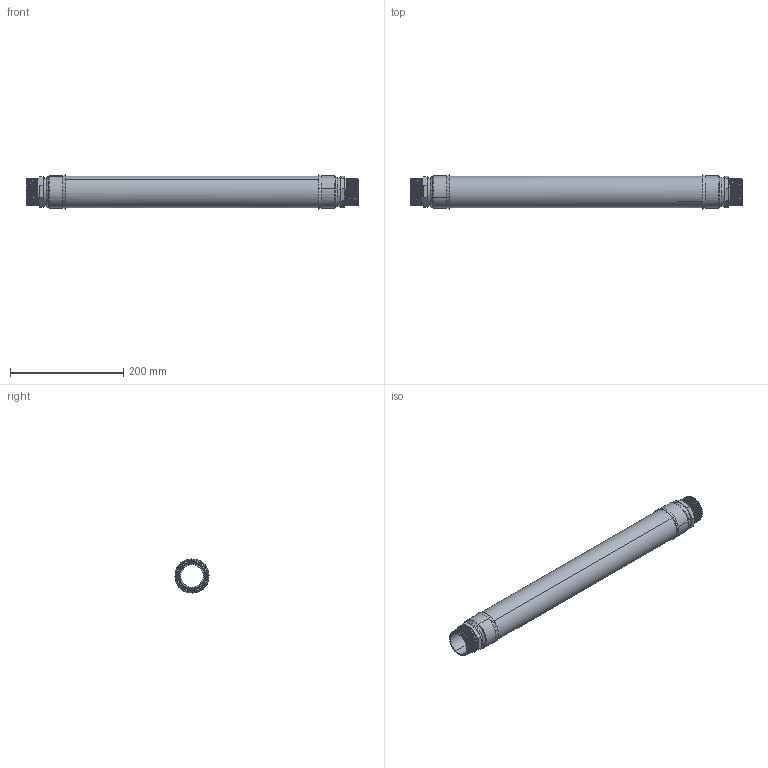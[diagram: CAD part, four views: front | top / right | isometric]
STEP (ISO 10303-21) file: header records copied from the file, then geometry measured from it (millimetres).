
FILE_DESCRIPTION (( 'STEP AP203' ), '1' );
FILE_NAME ('KP_TN40-6S.step', '2011-08-08T11:47:45', ( '' ), ( '' ), 'SwSTEP 2.0', 'SolidWorks 2011', '' );
FILE_SCHEMA (( 'CONFIG_CONTROL_DESIGN' ));
Length unit declared in the file: millimetre
Products named in the file (1): KP_TN40-6S
Bounding box: 586.09 x 60.3 x 60.3 mm (x, y, z)
Volume: 268761.6 mm3; surface area: 203789 mm2
Topology: 1 solids, 1 shells, 128 faces, 324 edges, 208 vertices
Faces by surface type: cone 70, plane 30, cylinder 20, bspline 8
Entity records: 18775 total; most frequent: CARTESIAN_POINT 15823, ORIENTED_EDGE 648, DIRECTION 516, EDGE_CURVE 324, VERTEX_POINT 208, AXIS2_PLACEMENT_3D 201, EDGE_LOOP 140, B_SPLINE_CURVE_WITH_KNOTS 130
